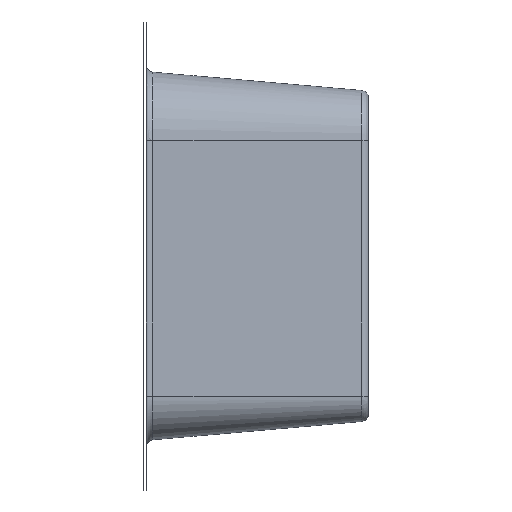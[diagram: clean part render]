
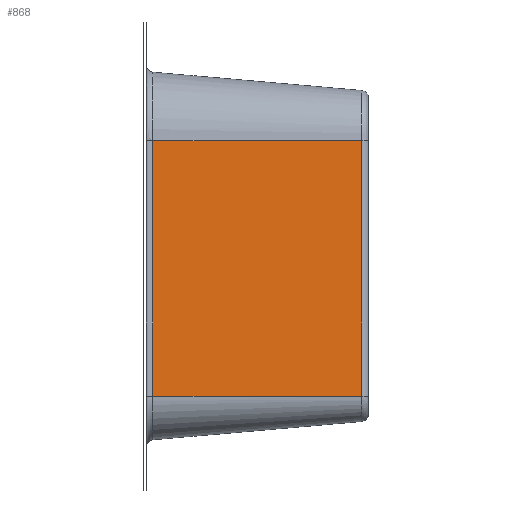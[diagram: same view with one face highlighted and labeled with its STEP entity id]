
A CAD part, left-side view. The second image highlights one B-rep face of the part: STEP entity #868.
In plain terms, the highlighted free-form (B-spline) face has degree [5, 1] with [6, 2] control points.
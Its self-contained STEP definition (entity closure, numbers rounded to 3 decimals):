
#273=CARTESIAN_POINT('Vertex',(-0.24,2.739,113.)) ;
#276=CARTESIAN_POINT('Line Origine',(-0.24,2.739,67.398)) ;
#280=CARTESIAN_POINT('Vertex',(-0.24,2.739,10.)) ;
#822=CARTESIAN_POINT('Control Point',(-7.844,89.658,10.)) ;
#823=CARTESIAN_POINT('Control Point',(0.,0.,10.)) ;
#824=CARTESIAN_POINT('Control Point',(-7.844,89.658,30.6)) ;
#825=CARTESIAN_POINT('Control Point',(0.,0.,30.6)) ;
#826=CARTESIAN_POINT('Control Point',(-7.844,89.658,51.2)) ;
#827=CARTESIAN_POINT('Control Point',(0.,0.,51.2)) ;
#828=CARTESIAN_POINT('Control Point',(-7.844,89.658,71.8)) ;
#829=CARTESIAN_POINT('Control Point',(0.,0.,71.8)) ;
#830=CARTESIAN_POINT('Control Point',(-7.844,89.658,92.4)) ;
#831=CARTESIAN_POINT('Control Point',(0.,0.,92.4)) ;
#832=CARTESIAN_POINT('Control Point',(-7.844,89.658,113.)) ;
#833=CARTESIAN_POINT('Control Point',(0.,0.,113.)) ;
#835=CARTESIAN_POINT('Control Point',(-7.604,86.919,113.)) ;
#836=CARTESIAN_POINT('Control Point',(-6.131,70.083,113.)) ;
#837=CARTESIAN_POINT('Control Point',(-4.658,53.247,113.)) ;
#838=CARTESIAN_POINT('Control Point',(-3.186,36.411,113.)) ;
#839=CARTESIAN_POINT('Control Point',(-1.713,19.575,113.)) ;
#840=CARTESIAN_POINT('Control Point',(-0.24,2.739,113.)) ;
#841=CARTESIAN_POINT('Vertex',(-7.604,86.919,113.)) ;
#845=CARTESIAN_POINT('Control Point',(-7.604,86.919,10.)) ;
#846=CARTESIAN_POINT('Control Point',(-7.604,86.919,30.6)) ;
#847=CARTESIAN_POINT('Control Point',(-7.604,86.919,51.2)) ;
#848=CARTESIAN_POINT('Control Point',(-7.604,86.919,71.8)) ;
#849=CARTESIAN_POINT('Control Point',(-7.604,86.919,92.4)) ;
#850=CARTESIAN_POINT('Control Point',(-7.604,86.919,113.)) ;
#851=CARTESIAN_POINT('Vertex',(-7.604,86.919,10.)) ;
#855=CARTESIAN_POINT('Control Point',(-7.604,86.919,10.)) ;
#856=CARTESIAN_POINT('Control Point',(-6.131,70.083,10.)) ;
#857=CARTESIAN_POINT('Control Point',(-4.658,53.247,10.)) ;
#858=CARTESIAN_POINT('Control Point',(-3.186,36.411,10.)) ;
#859=CARTESIAN_POINT('Control Point',(-1.713,19.575,10.)) ;
#860=CARTESIAN_POINT('Control Point',(-0.24,2.739,10.)) ;
#277=DIRECTION('Vector Direction',(0.,0.,1.)) ;
#863=ORIENTED_EDGE('',*,*,#282,.F.) ;
#864=ORIENTED_EDGE('',*,*,#843,.F.) ;
#865=ORIENTED_EDGE('',*,*,#853,.F.) ;
#866=ORIENTED_EDGE('',*,*,#861,.T.) ;
#278=VECTOR('Line Direction',#277,1.) ;
#868=ADVANCED_FACE('base',(#867),#821,.F.) ;
#834=B_SPLINE_CURVE_WITH_KNOTS('',5,(#835,#836,#837,#838,#839,#840),.UNSPECIFIED.,.F.,.U.,(6,6),(2.749,87.251),.UNSPECIFIED.) ;
#844=B_SPLINE_CURVE_WITH_KNOTS('',5,(#845,#846,#847,#848,#849,#850),.UNSPECIFIED.,.F.,.U.,(6,6),(0.,103.),.UNSPECIFIED.) ;
#854=B_SPLINE_CURVE_WITH_KNOTS('',5,(#855,#856,#857,#858,#859,#860),.UNSPECIFIED.,.F.,.U.,(6,6),(2.749,87.251),.UNSPECIFIED.) ;
#821=B_SPLINE_SURFACE_WITH_KNOTS('',5,1,((#822,#823),(#824,#825),(#826,#827),(#828,#829),(#830,#831),(#832,#833)),.UNSPECIFIED.,.F.,.F.,.U.,(6,6),(2,2),(0.,103.),(0.,90.),.UNSPECIFIED.) ;
#282=EDGE_CURVE('',#274,#281,#279,.F.) ;
#843=EDGE_CURVE('',#842,#274,#834,.T.) ;
#853=EDGE_CURVE('',#852,#842,#844,.T.) ;
#861=EDGE_CURVE('',#852,#281,#854,.T.) ;
#862=EDGE_LOOP('',(#863,#864,#865,#866)) ;
#867=FACE_OUTER_BOUND('',#862,.T.) ;
#279=LINE('Line',#276,#278) ;
#274=VERTEX_POINT('',#273) ;
#281=VERTEX_POINT('',#280) ;
#842=VERTEX_POINT('',#841) ;
#852=VERTEX_POINT('',#851) ;
